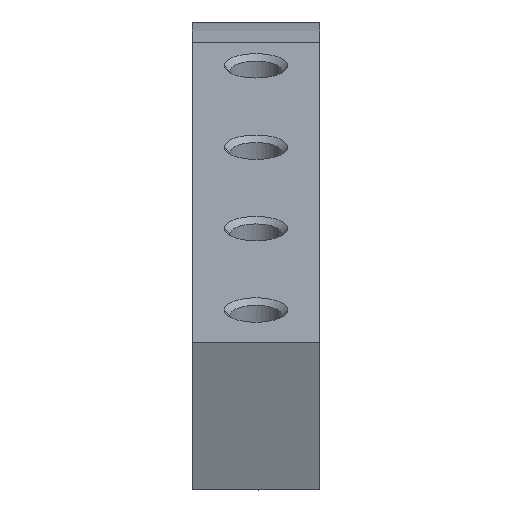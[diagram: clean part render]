
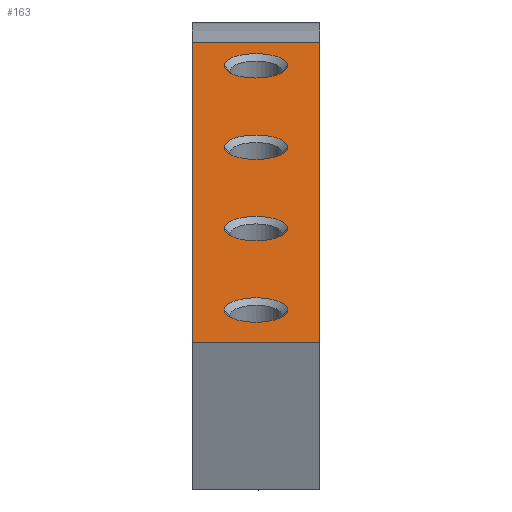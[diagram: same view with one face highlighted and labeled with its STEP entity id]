
A CAD part, front view. The second image highlights one B-rep face of the part: STEP entity #163.
In plain terms, the highlighted planar face has unit normal (0, -0.383, 0.924).
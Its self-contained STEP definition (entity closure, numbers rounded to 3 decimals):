
#163=ADVANCED_FACE('',(#609,#610,#611,#612,#386),#2034,.T.);
#386=FACE_OUTER_BOUND('',#638,.F.);
#609=FACE_BOUND('',#634,.F.);
#610=FACE_BOUND('',#635,.F.);
#611=FACE_BOUND('',#636,.F.);
#612=FACE_BOUND('',#637,.F.);
#634=EDGE_LOOP('',(#882,#883));
#635=EDGE_LOOP('',(#884,#885));
#636=EDGE_LOOP('',(#886,#887));
#637=EDGE_LOOP('',(#888,#889));
#638=EDGE_LOOP('',(#890,#891,#892,#893));
#882=ORIENTED_EDGE('',*,*,#2985,.T.);
#883=ORIENTED_EDGE('',*,*,#2986,.T.);
#884=ORIENTED_EDGE('',*,*,#2987,.T.);
#885=ORIENTED_EDGE('',*,*,#2988,.T.);
#886=ORIENTED_EDGE('',*,*,#2989,.T.);
#887=ORIENTED_EDGE('',*,*,#2990,.T.);
#888=ORIENTED_EDGE('',*,*,#2995,.T.);
#889=ORIENTED_EDGE('',*,*,#2996,.T.);
#890=ORIENTED_EDGE('',*,*,#3152,.F.);
#891=ORIENTED_EDGE('',*,*,#3154,.F.);
#892=ORIENTED_EDGE('',*,*,#3153,.T.);
#893=ORIENTED_EDGE('',*,*,#3151,.T.);
#2034=PLANE('',#4396);
#2341=LINE('',#6437,#2695);
#2342=LINE('',#6438,#2696);
#2343=LINE('',#6439,#2697);
#2344=LINE('',#6440,#2698);
#2695=VECTOR('',#4877,12.);
#2696=VECTOR('',#4878,73.792);
#2697=VECTOR('',#4879,73.792);
#2698=VECTOR('',#4880,12.);
#2985=EDGE_CURVE('',#4152,#4151,#3561,.T.);
#2986=EDGE_CURVE('',#4151,#4152,#3562,.T.);
#2987=EDGE_CURVE('',#4150,#4149,#3563,.T.);
#2988=EDGE_CURVE('',#4149,#4150,#3564,.T.);
#2989=EDGE_CURVE('',#4148,#4147,#3565,.T.);
#2990=EDGE_CURVE('',#4147,#4148,#3566,.T.);
#2995=EDGE_CURVE('',#4142,#4141,#3567,.T.);
#2996=EDGE_CURVE('',#4141,#4142,#3568,.T.);
#3151=EDGE_CURVE('',#3986,#3985,#2341,.T.);
#3152=EDGE_CURVE('',#3984,#3985,#2342,.T.);
#3153=EDGE_CURVE('',#3983,#3986,#2343,.T.);
#3154=EDGE_CURVE('',#3983,#3984,#2344,.T.);
#3561=CIRCLE('',#4182,3.);
#3562=CIRCLE('',#4183,3.);
#3563=CIRCLE('',#4184,3.);
#3564=CIRCLE('',#4185,3.);
#3565=CIRCLE('',#4186,3.);
#3566=CIRCLE('',#4187,3.);
#3567=CIRCLE('',#4188,3.);
#3568=CIRCLE('',#4189,3.);
#3983=VERTEX_POINT('',#6067);
#3984=VERTEX_POINT('',#6068);
#3985=VERTEX_POINT('',#6069);
#3986=VERTEX_POINT('',#6070);
#4141=VERTEX_POINT('',#6225);
#4142=VERTEX_POINT('',#6226);
#4147=VERTEX_POINT('',#6231);
#4148=VERTEX_POINT('',#6232);
#4149=VERTEX_POINT('',#6233);
#4150=VERTEX_POINT('',#6234);
#4151=VERTEX_POINT('',#6235);
#4152=VERTEX_POINT('',#6236);
#4182=AXIS2_PLACEMENT_3D('',#6237,#4625,#4626);
#4183=AXIS2_PLACEMENT_3D('',#6238,#4627,#4628);
#4184=AXIS2_PLACEMENT_3D('',#6239,#4629,#4630);
#4185=AXIS2_PLACEMENT_3D('',#6240,#4631,#4632);
#4186=AXIS2_PLACEMENT_3D('',#6241,#4633,#4634);
#4187=AXIS2_PLACEMENT_3D('',#6242,#4635,#4636);
#4188=AXIS2_PLACEMENT_3D('',#6281,#4637,#4638);
#4189=AXIS2_PLACEMENT_3D('',#6282,#4639,#4640);
#4396=AXIS2_PLACEMENT_3D('',#6881,#5407,#5408);
#4625=DIRECTION('',(0.,-0.383,0.924));
#4626=DIRECTION('',(-1.,0.,0.));
#4627=DIRECTION('',(0.,-0.383,0.924));
#4628=DIRECTION('',(1.,0.,0.));
#4629=DIRECTION('',(0.,-0.383,0.924));
#4630=DIRECTION('',(-1.,0.,0.));
#4631=DIRECTION('',(0.,-0.383,0.924));
#4632=DIRECTION('',(1.,0.,0.));
#4633=DIRECTION('',(0.,-0.383,0.924));
#4634=DIRECTION('',(-1.,0.,0.));
#4635=DIRECTION('',(0.,-0.383,0.924));
#4636=DIRECTION('',(1.,0.,0.));
#4637=DIRECTION('',(0.,-0.383,0.924));
#4638=DIRECTION('',(-1.,0.,0.));
#4639=DIRECTION('',(0.,-0.383,0.924));
#4640=DIRECTION('',(1.,0.,0.));
#4877=DIRECTION('',(1.,0.,0.));
#4878=DIRECTION('',(0.,0.924,0.383));
#4879=DIRECTION('',(0.,0.924,0.383));
#4880=DIRECTION('',(1.,0.,0.));
#5407=DIRECTION('',(0.,-0.383,0.924));
#5408=DIRECTION('',(0.,0.924,0.383));
#6067=CARTESIAN_POINT('',(174.487,-229.327,28.833));
#6068=CARTESIAN_POINT('',(186.487,-229.327,28.833));
#6069=CARTESIAN_POINT('',(186.487,-161.152,57.072));
#6070=CARTESIAN_POINT('',(174.487,-161.152,57.072));
#6225=CARTESIAN_POINT('',(183.487,-221.936,31.895));
#6226=CARTESIAN_POINT('',(177.487,-221.936,31.895));
#6231=CARTESIAN_POINT('',(183.487,-203.458,39.548));
#6232=CARTESIAN_POINT('',(177.487,-203.458,39.548));
#6233=CARTESIAN_POINT('',(183.487,-184.981,47.202));
#6234=CARTESIAN_POINT('',(177.487,-184.981,47.202));
#6235=CARTESIAN_POINT('',(183.487,-166.503,54.856));
#6236=CARTESIAN_POINT('',(177.487,-166.503,54.856));
#6237=CARTESIAN_POINT('',(180.487,-166.503,54.856));
#6238=CARTESIAN_POINT('',(180.487,-166.503,54.856));
#6239=CARTESIAN_POINT('',(180.487,-184.981,47.202));
#6240=CARTESIAN_POINT('',(180.487,-184.981,47.202));
#6241=CARTESIAN_POINT('',(180.487,-203.458,39.548));
#6242=CARTESIAN_POINT('',(180.487,-203.458,39.548));
#6281=CARTESIAN_POINT('',(180.487,-221.936,31.895));
#6282=CARTESIAN_POINT('',(180.487,-221.936,31.895));
#6437=CARTESIAN_POINT('',(174.487,-161.152,57.072));
#6438=CARTESIAN_POINT('',(186.487,-229.327,28.833));
#6439=CARTESIAN_POINT('',(174.487,-229.327,28.833));
#6440=CARTESIAN_POINT('',(174.487,-229.327,28.833));
#6881=CARTESIAN_POINT('',(187.275,-230.055,28.532));
